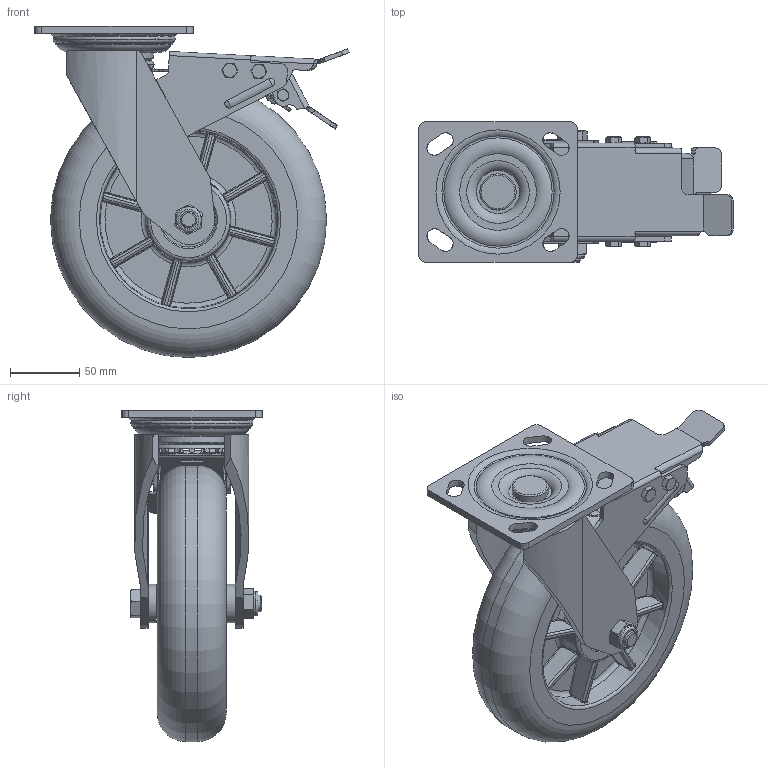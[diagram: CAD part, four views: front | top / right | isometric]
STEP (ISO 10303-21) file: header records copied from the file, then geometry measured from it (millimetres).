
FILE_DESCRIPTION(/* description */ (''),/* implementation_level */ '2;1');
FILE_NAME(/* name */ '35C59_8_F.stp',/* time_stamp */ '2022-10-17T13:06:17+08:00',/* author */ (''),/* organization */ (''),/* preprocessor_version */ 'ST-DEVELOPER v14',/* originating_system */ 'SIEMENS PLM Software NX 8.0',/* authorisation */ '');
FILE_SCHEMA (('AUTOMOTIVE_DESIGN { 1 0 10303 214 3 1 1 1 }'));
Length unit declared in the file: millimetre
Products named in the file (1): 35C59_8_F
Bounding box: 228 x 102 x 240 mm (x, y, z)
Surface area: 275303.3 mm2
Topology: 1 solids, 3 shells, 1463 faces, 3959 edges, 2516 vertices
Faces by surface type: plane 565, cylinder 370, bspline 270, torus 99, cone 78, sphere 53, extrusion 28
Full cylindrical faces by diameter (mm): 4 x2, 5 x2, 5.2 x2, 5.997 x19, 6 x2, 6.2 x9, 7.78 x1, 9.78 x2, 12 x3, 12.3 x3, 16.2 x1, 16.3 x1, 18 x1, 20.5 x2, 22.276 x1, 26.256 x1, 28 x2, 39.85 x2, 40 x1, 57 x1, 85 x1, 200 x1
Entity records: 69205 total; most frequent: CARTESIAN_POINT 36939, ORIENTED_EDGE 7164, DIRECTION 5930, EDGE_CURVE 3582, AXIS2_PLACEMENT_3D 2349, VERTEX_POINT 2321, EDGE_LOOP 1715, ADVANCED_FACE 1445
